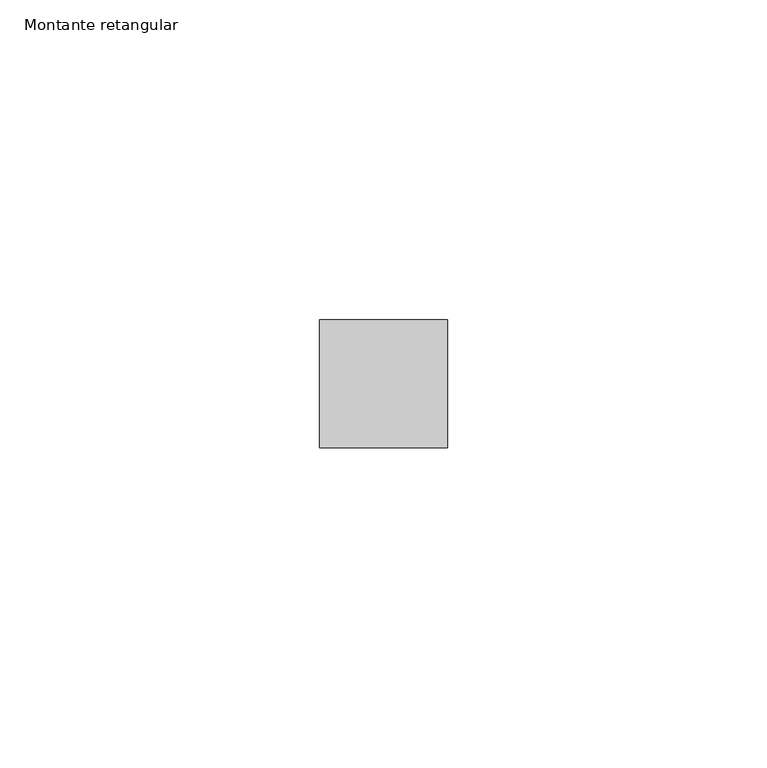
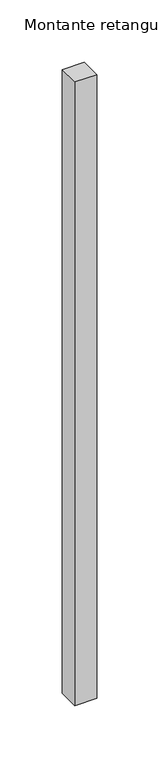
"""IFC4 building model written with IfcOpenShell, lengths in millimetres: member geometry, Montante retangular : ARQ_RIPAS."""

from ifc_helpers import new_model, si_unit, frame, origin, place, context, project, spatial, polyline, outline, extrude, source, transform, mapped, element, save


def montante_retangular_da59f7c3(model_context):
    return source(origin(), model_context, "Body", "SweptSolid", [
        extrude(outline(polyline([(10.0, 0.0), (10.0, -20.0), (-10.0, -20.0), (-10.0, 0.0), (10.0, 0.0)])), frame((0.0, 0.0, -610.0), z_axis=(0.0, 0.0, 1.0), x_axis=(1.0, 0.0, 0.0)), (0.0, 0.0, 1.0), 610.0),
    ])


if __name__ == "__main__":
    model = new_model("IFC4")
    model_context = context("Model", 3, world=origin())
    ifc_project = project(units=[si_unit("LENGTHUNIT", "METRE", prefix="MILLI")], contexts=[model_context])
    site = spatial("IfcSite", under=ifc_project)
    building = spatial("IfcBuilding", under=site)
    placement = place(None, origin())
    montante_retangular_shape = montante_retangular_da59f7c3(model_context)
    element("IfcMember", 1, ObjectType="Montante retangular : ARQ_RIPAS", at=placement, inside=building, context=model_context, shape_type="MappedRepresentation", body=[
        mapped(montante_retangular_shape, transform((0.0, 0.0, 0.0), x_axis=(1.0, 0.0, 0.0), y_axis=(0.0, 1.0, 0.0), z_axis=(0.0, 0.0, 1.0))),
    ])
    save(model, "model.ifc")
